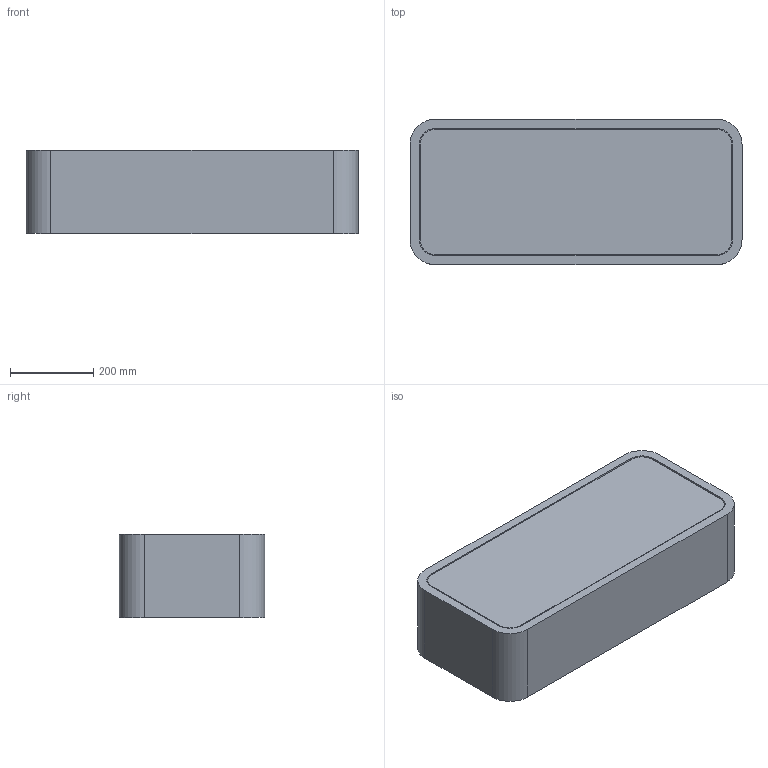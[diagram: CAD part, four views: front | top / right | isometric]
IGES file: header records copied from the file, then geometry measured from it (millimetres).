
Start section:  PTC IGES file: fu10017a.igs
Global section: file name: fu10017a.igs; native system: Pro/ENGINEER by Parametric Technology Corporation; preprocessor: 2009140; author: damjan; organization: Unknown; date: 20100811.102627; units: millimetre
Bounding box: 800 x 350 x 200 mm (x, y, z)
Volume: 55076507.1 mm3; surface area: 1060891.7 mm2
Topology: 1 solids, 1 shells, 28 faces, 72 edges, 48 vertices
Faces by surface type: bspline 16, revolution 12
